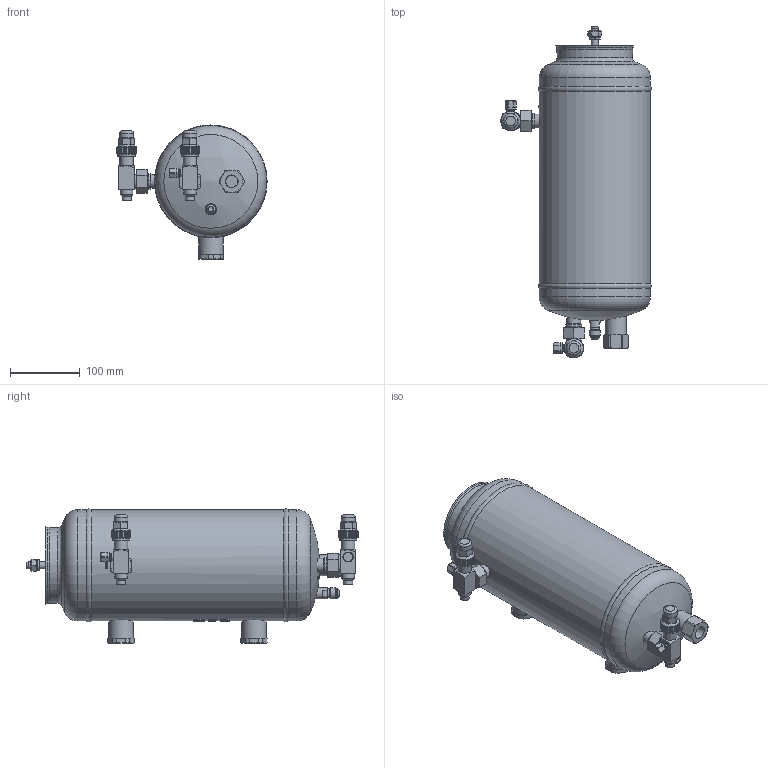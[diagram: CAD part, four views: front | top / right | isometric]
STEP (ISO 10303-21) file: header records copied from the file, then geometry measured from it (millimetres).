
FILE_DESCRIPTION(/* description */ (''),/* implementation_level */ '2;1');
FILE_NAME(/* name */ 'P:\OSA\OSA-6-CDM\OSA-6-CDM.stp',/* time_stamp */ '2017-03-23T08:57:17+01:00',/* author */ ('Goerner'),/* organization */ (''),/* preprocessor_version */ 'ST-DEVELOPER v16.1',/* originating_system */ 'Autodesk Inventor 2016',/* authorisation */ '');
FILE_SCHEMA (('AUTOMOTIVE_DESIGN { 1 0 10303 214 3 1 1 }'));
Length unit declared in the file: millimetre
Products named in the file (3): OSA-6-CDM_AG-Kunde; RAV-1-10-CDM_AG-Kunde; OSA-6-CDM_AG-Kunde_1
Assembly tree (3 placements, depth 2):
  OSA-6-CDM_AG-Kunde_1
    OSA-6-CDM_AG-Kunde
    RAV-1-10-CDM_AG-Kunde  x2
Bounding box: 214.88 x 474.57 x 191.59 mm (x, y, z)
Volume: 7377043 mm3; surface area: 280160.4 mm2
Topology: 4 solids, 13 shells, 1838 faces, 4844 edges, 3181 vertices
Faces by surface type: plane 965, bspline 383, cylinder 305, cone 152, torus 27, sphere 6
Full cylindrical faces by diameter (mm): 4 x2, 6.5 x2, 7.2 x1, 9 x2, 9.4 x2, 10 x2, 10.1 x2, 10.2 x2, 10.72 x2, 11 x2, 12.9 x1, 13 x2, 13.3 x2, 13.5 x3, 14 x2, 14.2 x2, 15.7 x1, 15.75 x2, 15.87 x2, 16 x1, 16.7 x2, 16.8 x2, 17.3 x2, 18 x2, 18.3 x2, 19 x2, 19.05 x2, 19.9 x2, 20 x6, 22.5 x4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
Entity records: 55197 total; most frequent: CARTESIAN_POINT 19407, ORIENTED_EDGE 7774, DIRECTION 6448, EDGE_CURVE 3887, VERTEX_POINT 2624, AXIS2_PLACEMENT_3D 2352, EDGE_LOOP 1789, LINE 1744
